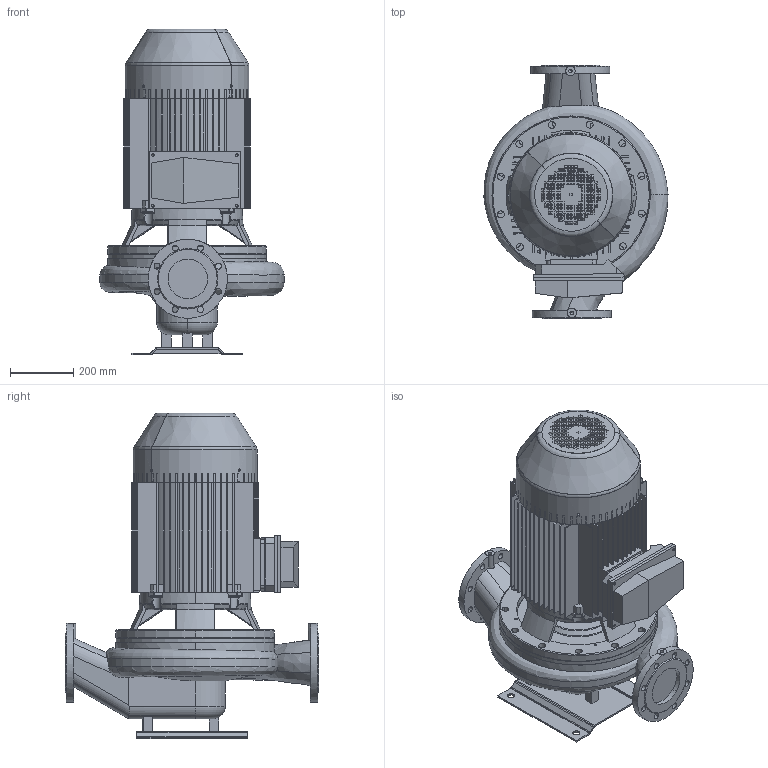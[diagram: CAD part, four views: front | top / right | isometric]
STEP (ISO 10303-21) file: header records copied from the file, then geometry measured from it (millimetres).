
FILE_DESCRIPTION(('STEP AP214'),'1');
FILE_NAME('export.stp','2018-05-29T08:03:00',(' '),(' '),'Spatial InterOp 3D',' ',' ');
FILE_SCHEMA(('AUTOMOTIVE_DESIGN { 1 0 10303 214 1 1 1 1 }'));
Length unit declared in the file: millimetre
Products named in the file (13): W_L125S4300_KP205; V_TLL125SAL1250; V_PPL125S; P100496; P100495; P100342; R200363; R200118; V_MKP205-K2-F41; R200144; R200138; R200137; R201182
Assembly tree (13 placements, depth 4):
  W_L125S4300_KP205
    V_TLL125SAL1250
    V_PPL125S
    P100496
      P100495  x2
      P100342
    V_MKP205-K2-F41
      R200363
        R200118
      R200144
      R200138
      R200137
      R201182
Bounding box: 581.13 x 801.06 x 1028 mm (x, y, z)
Volume: 50071950 mm3; surface area: 5655784.9 mm2
Topology: 10 solids, 10 shells, 2006 faces, 5829 edges, 3821 vertices
Faces by surface type: plane 1303, cylinder 452, torus 102, bspline 87, cone 54, sphere 8
Entity records: 114864 total; most frequent: CARTESIAN_POINT 23958, ORIENTED_EDGE 11578, DIRECTION 10381, STYLED_ITEM 6176, PRESENTATION_STYLE_ASSIGNMENT 6176, COLOUR_RGB 6176, EDGE_CURVE 5789, CURVE_STYLE 4167
